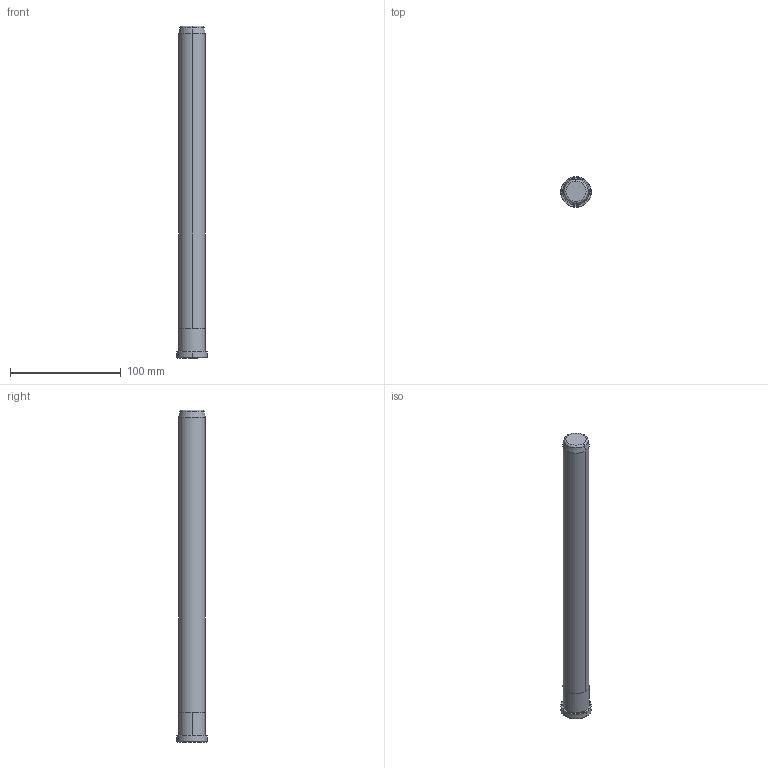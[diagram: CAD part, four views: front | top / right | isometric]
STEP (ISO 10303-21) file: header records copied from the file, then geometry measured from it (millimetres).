
FILE_DESCRIPTION((''),'2;1');
FILE_NAME('B82824300','2018-01-22T',('MANU'),(''),'PRO/ENGINEER BY PARAMETRIC TECHNOLOGY CORPORATION, 2012130','PRO/ENGINEER BY PARAMETRIC TECHNOLOGY CORPORATION, 2012130','');
FILE_SCHEMA(('CONFIG_CONTROL_DESIGN'));
Length unit declared in the file: millimetre
Products named in the file (1): B82824300
Bounding box: 28 x 28 x 300 mm (x, y, z)
Volume: 136339.5 mm3; surface area: 23728.3 mm2
Topology: 1 solids, 1 shells, 18 faces, 34 edges, 20 vertices
Faces by surface type: cone 6, cylinder 6, plane 4, torus 2
Entity records: 494 total; most frequent: DIRECTION 92, CARTESIAN_POINT 72, ORIENTED_EDGE 68, AXIS2_PLACEMENT_3D 40, EDGE_CURVE 34, CIRCLE 22, VERTEX_POINT 20, EDGE_LOOP 20
